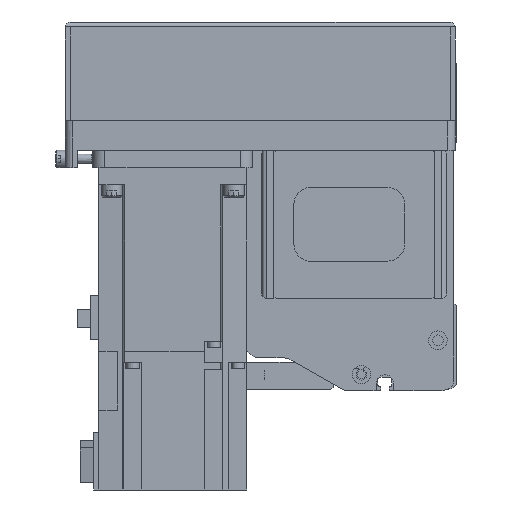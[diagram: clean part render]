
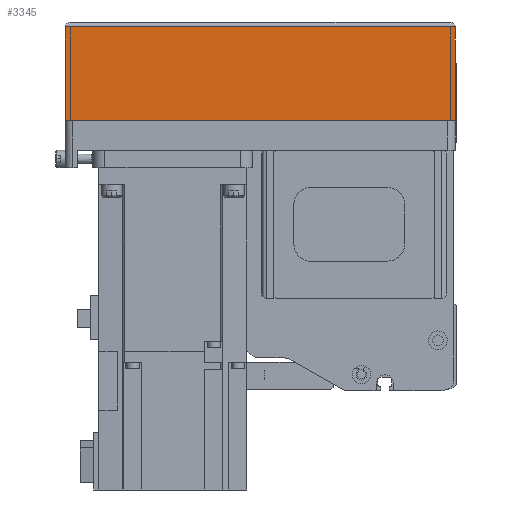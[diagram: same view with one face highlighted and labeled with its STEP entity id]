
A CAD part, left-side view. The second image highlights one B-rep face of the part: STEP entity #3345.
In plain terms, the highlighted planar face has unit normal (-1, 0, 0) as drawn and (0, 1, 0) by its records, which use the part's own axes.
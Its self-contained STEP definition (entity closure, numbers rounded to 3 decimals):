
#3345 = ADVANCED_FACE( '', ( #6941 ), #6942, .T. );
#6941 = FACE_OUTER_BOUND( '', #10507, .T. );
#6942 = PLANE( '', #10508 );
#10507 = EDGE_LOOP( '', ( #19899, #19900, #19901, #19902 ) );
#10508 = AXIS2_PLACEMENT_3D( '', #19903, #19904, #19905 );
#19899 = ORIENTED_EDGE( '', *, *, #23333, .F. );
#19900 = ORIENTED_EDGE( '', *, *, #23166, .F. );
#19901 = ORIENTED_EDGE( '', *, *, #23077, .T. );
#19902 = ORIENTED_EDGE( '', *, *, #21944, .T. );
#19903 = CARTESIAN_POINT( '', ( -158., 39., -50. ) );
#19904 = DIRECTION( '', ( 0., 1., 0. ) );
#19905 = DIRECTION( '', ( 0., 0., 1. ) );
#21944 = EDGE_CURVE( '', #24615, #23847, #26930, .T. );
#23077 = EDGE_CURVE( '', #28471, #24615, #28472, .T. );
#23166 = EDGE_CURVE( '', #28471, #28581, #28582, .T. );
#23333 = EDGE_CURVE( '', #28581, #23847, #28776, .T. );
#23847 = VERTEX_POINT( '', #29424 );
#24615 = VERTEX_POINT( '', #30480 );
#26930 = LINE( '', #34162, #34163 );
#28471 = VERTEX_POINT( '', #36478 );
#28472 = LINE( '', #36479, #36480 );
#28581 = VERTEX_POINT( '', #36655 );
#28582 = LINE( '', #36656, #36657 );
#28776 = LINE( '', #36984, #36985 );
#29424 = CARTESIAN_POINT( '', ( 0., 39., -12.1 ) );
#30480 = CARTESIAN_POINT( '', ( -158., 39., -12.1 ) );
#34162 = CARTESIAN_POINT( '', ( -158., 39., -12.1 ) );
#34163 = VECTOR( '', #40002, 1000. );
#36478 = CARTESIAN_POINT( '', ( -158., 39., -50. ) );
#36479 = CARTESIAN_POINT( '', ( -158., 39., -50. ) );
#36480 = VECTOR( '', #41261, 1000. );
#36655 = CARTESIAN_POINT( '', ( 0., 39., -50. ) );
#36656 = CARTESIAN_POINT( '', ( -158., 39., -50. ) );
#36657 = VECTOR( '', #41357, 1000. );
#36984 = CARTESIAN_POINT( '', ( 0., 39., -50. ) );
#36985 = VECTOR( '', #41509, 1000. );
#40002 = DIRECTION( '', ( 1., 0., 0. ) );
#41261 = DIRECTION( '', ( 0., 0., 1. ) );
#41357 = DIRECTION( '', ( 1., 0., 0. ) );
#41509 = DIRECTION( '', ( 0., 0., 1. ) );
